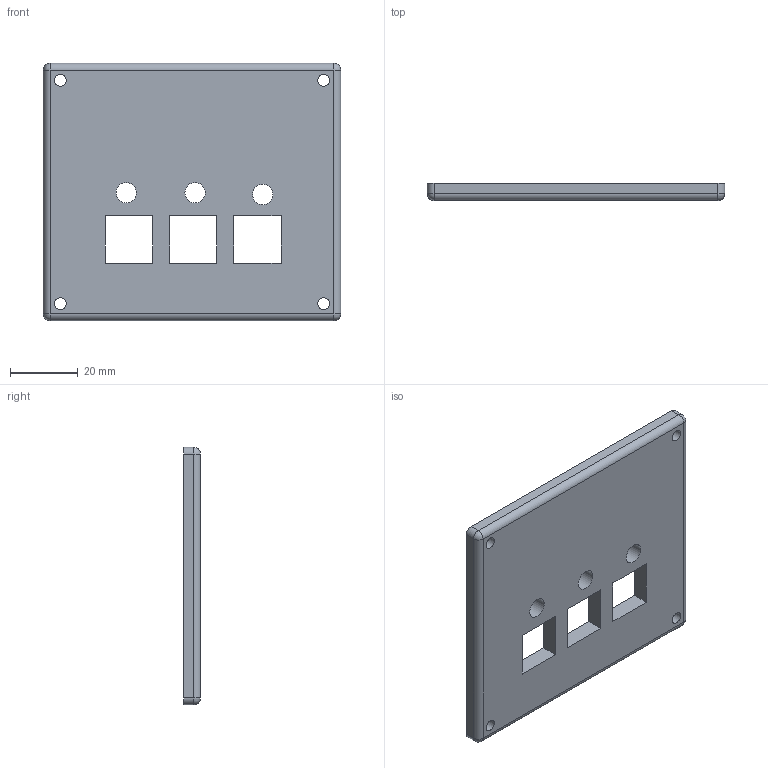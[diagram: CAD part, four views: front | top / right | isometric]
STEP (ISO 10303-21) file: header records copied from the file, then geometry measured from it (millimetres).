
FILE_DESCRIPTION(('STEP AP242 Edition 2','STEP AP242 Edition 2''CAx-IF Rec.Pracs.---Representation and Presentation of Product Manufacturing Information (PMI)---4.0---2014-10-13','STEP AP242 Edition 2''CAx-IF Rec.Pracs.---Representation and Presentation of Product Manufacturing Information (PMI)---4.0---2014-10-13''CAx-IF Rec.Pracs.---3D Tessellated Geometry---0.4---2014-09-14','STEP AP242 Edition 2''CAx-IF Rec.Pracs.---Representation and Presentation of Product Manufacturing Information (PMI)---4.0---2014-10-13''CAx-IF Rec.Pracs.---3D Tessellated Geometry---0.4---2014-09-14''2;1','STEP AP242 Edition 2''CAx-IF Rec.Pracs.---Representation and Presentation of Product Manufacturing Information (PMI)---4.0---2014-10-13''CAx-IF Rec.Pracs.---3D Tessellated Geometry---0.4---2014-09-14''2;1''CAx-IF Rec.Pracs.---User Defined Attributes---1.5---2016-08-15'),'2;1');
FILE_NAME('/vol/tmp/translate-11540683196221932997/Part Studio 1.step','2026-03-29T18:15:02',(''),(''),'ST-DEVELOPER v20','ONSHAPE BY PTC INC, 1.212',' ');
FILE_SCHEMA(('AP242_MANAGED_MODEL_BASED_3D_ENGINEERING_MIM_LF { 1 0 10303 442 3 1 4 }'));
Length unit declared in the file: metre
Products named in the file (1): Part 1
Bounding box: 87.8 x 5 x 76 mm (x, y, z)
Volume: 29527 mm3; surface area: 14602.8 mm2
Topology: 1 solids, 1 shells, 37 faces, 97 edges, 58 vertices
Faces by surface type: plane 18, cylinder 15, sphere 4
Full cylindrical faces by diameter (mm): 3.5 x4, 6 x3
Entity records: 1128 total; most frequent: DIRECTION 192, CARTESIAN_POINT 182, ORIENTED_EDGE 172, EDGE_CURVE 86, AXIS2_PLACEMENT_3D 68, EDGE_LOOP 64, FACE_BOUND 64, VERTEX_POINT 58
